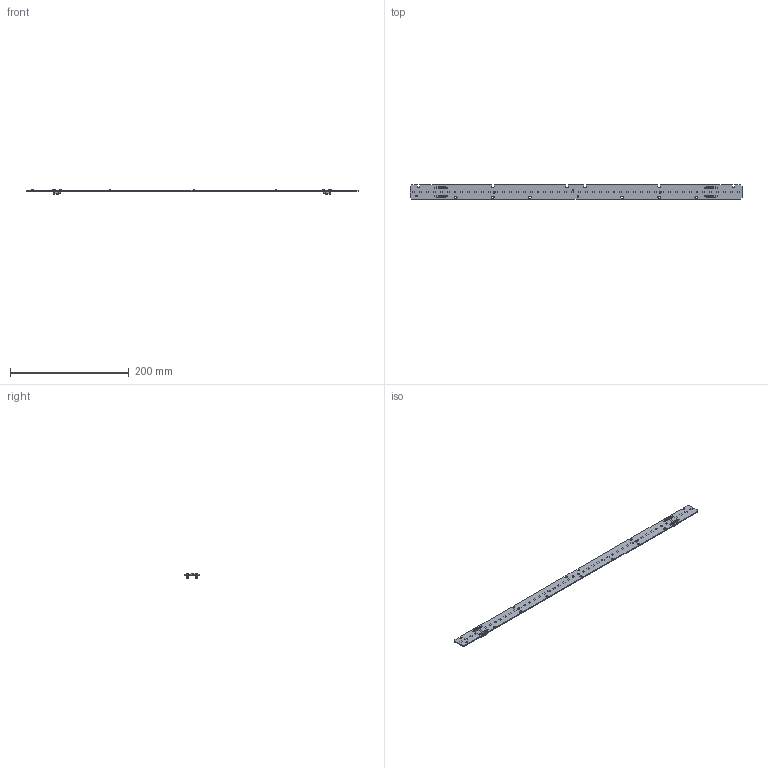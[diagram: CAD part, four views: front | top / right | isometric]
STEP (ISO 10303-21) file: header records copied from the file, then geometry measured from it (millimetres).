
FILE_DESCRIPTION((''),'2;1');
FILE_NAME('16208811_LLE5LV-24X560-2400LMBT','2020-06-17T14:36:22',('bernhard.fink'),(''),'CREO PARAMETRIC BY PTC INC, 2019164','CREO PARAMETRIC BY PTC INC, 2019164','');
FILE_SCHEMA(('CONFIG_CONTROL_DESIGN'));
Products named in the file (1): 16208811_LLE5LV-24X560-2400LMBT
Bounding box: 559 x 23.6 x 7.4 mm (x, y, z)
Volume: 21287.9 mm3; surface area: 31483.9 mm2
Topology: 53 solids, 57 shells, 1859 faces, 4974 edges, 3208 vertices
Faces by surface type: plane 1267, cylinder 440, extrusion 88, sphere 32, cone 16, bspline 16
Entity records: 109867 total; most frequent: CARTESIAN_POINT 64442, ORIENTED_EDGE 9772, DIRECTION 8578, EDGE_CURVE 4942, VECTOR 3626, LINE 3538, VERTEX_POINT 3208, AXIS2_PLACEMENT_3D 2476
